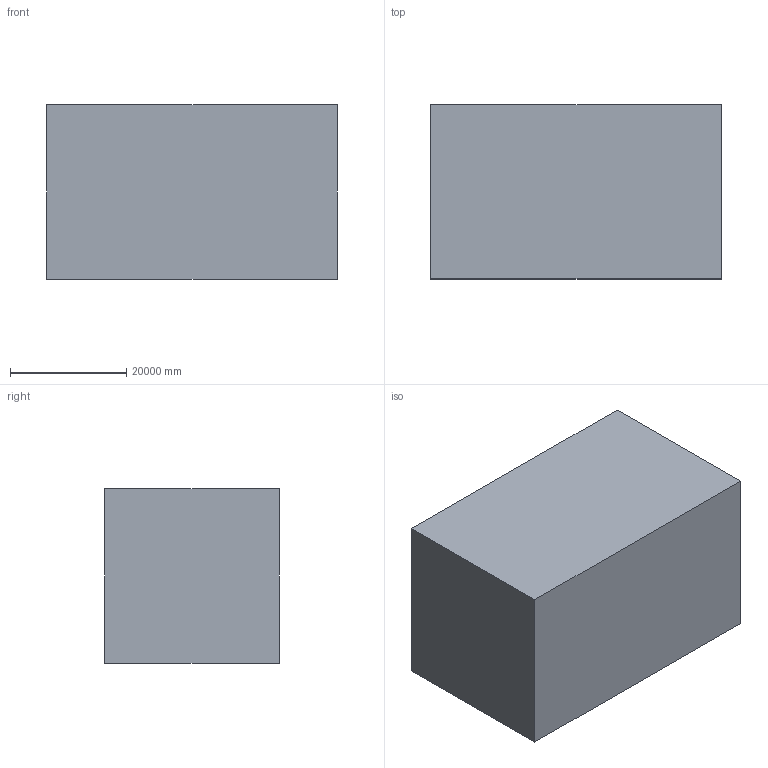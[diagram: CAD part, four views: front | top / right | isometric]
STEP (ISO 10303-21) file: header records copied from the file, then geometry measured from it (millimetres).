
FILE_DESCRIPTION(('CATIA V5 STEP Exchange'),'2;1');
FILE_NAME('C:\Users\Se7en\Desktop\Coyote\Coyote.stp','2020-05-03T17:35:05+00:00',('none'),('none'),'CATIA Version 5 Release 19 SP 4 (IN-10)','CATIA V5 STEP AP203','none');
FILE_SCHEMA(('CONFIG_CONTROL_DESIGN'));
Products named in the file (1): naya194CE267pdk3
Bounding box: 50000 x 30000 x 30000 mm (x, y, z)
Surface area: 8282947453.1 mm2 (no closed solid volume)
Topology: 0 solids, 18 shells, 70 faces, 271 edges, 206 vertices
Faces by surface type: bspline 52, plane 18
Entity records: 144274 total; most frequent: CARTESIAN_POINT 142844, ORIENTED_EDGE 360, EDGE_CURVE 249, B_SPLINE_CURVE_WITH_KNOTS 205, VERTEX_POINT 185, ADVANCED_FACE 70, EDGE_LOOP 70, FACE_OUTER_BOUND 70
